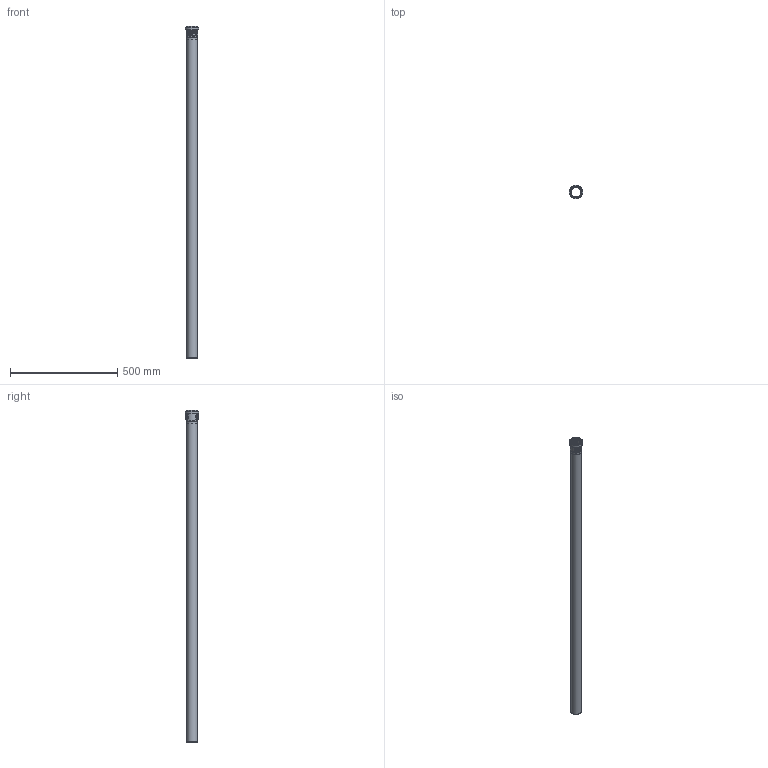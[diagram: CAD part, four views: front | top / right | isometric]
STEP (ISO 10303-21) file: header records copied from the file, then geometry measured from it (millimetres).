
FILE_DESCRIPTION(/* description */ (''),/* implementation_level */ '2;1');
FILE_NAME(/* name */ 'Z:\Geberit\Export\NewStep\390205.stp',/* time_stamp */ '2014-04-02T08:09:37+02:00',/* author */ ('ML'),/* organization */ (''),/* preprocessor_version */ 'ST-DEVELOPER v15.2',/* originating_system */ 'Autodesk Inventor 2014',/* authorisation */ '');
FILE_SCHEMA (('AUTOMOTIVE_DESIGN { 1 0 10303 214 3 1 1 }'));
Length unit declared in the file: millimetre
Products named in the file (3): 861421; 861582ohne; 390205
Bounding box: 63.5 x 63.5 x 1550.8 mm (x, y, z)
Volume: 477846.2 mm3; surface area: 479413 mm2
Topology: 2 solids, 2 shells, 47 faces, 104 edges, 71 vertices
Faces by surface type: torus 24, cylinder 11, plane 10, cone 2
Full cylindrical faces by diameter (mm): 46.15 x2, 50.15 x2, 50.8 x2, 52.8 x1, 54.8 x2, 59.5 x1, 63.5 x1
Entity records: 1971 total; most frequent: CARTESIAN_POINT 930, DIRECTION 182, ORIENTED_EDGE 174, AXIS2_PLACEMENT_3D 91, EDGE_CURVE 87, EDGE_LOOP 78, VERTEX_POINT 71, STYLED_ITEM 49
